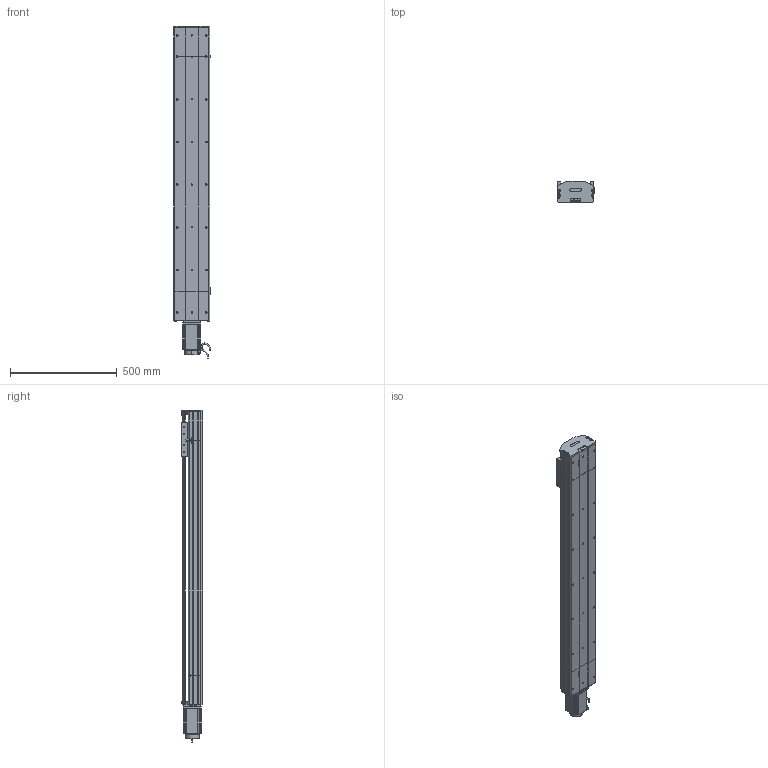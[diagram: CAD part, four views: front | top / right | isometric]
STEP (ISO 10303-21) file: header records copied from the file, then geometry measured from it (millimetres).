
FILE_DESCRIPTION (( 'STEP AP214' ), '1' );
FILE_NAME ('D17 TSH MD S1100.STEP', '2010-06-30T07:00:00', ( 'Christophe Gaillard' ), ( 'SGA' ), 'SwSTEP 2.0', 'SolidWorks 2010', '' );
FILE_SCHEMA (( 'AUTOMOTIVE_DESIGN' ));
Length unit declared in the file: millimetre
Products named in the file (31): vis M5 L12_Default; guide D17; Chariot D17; chariot D17S_Default; codeur 90BLDC125-640; corps 90BLDC125A-640; avant 90BLDC125A-640; Vis M5 L16-2_Default; Conecteur_Default; Conecteur2_Default; Moteur motionking 90BLDC125A-640; vis M5 L5_Default; Arbre+rail head D17; plaque de  bout head D17_Default; D17 TSH MD S1100; couvercle D17 course L1100_Default; corp D17 1100_Default; arbre + rail D17 Course 1100 ; course 1100 D17_Default; plaque de  bout tail D17_Default; corpl tail D17+L100_Default; Tail D17+L100_Default; Arbre+rail tail D17; tete d''axe haut D17; tete d''axe bas D17; vis M5 L25_Default; vis M5 L8 90°_Default; couvercle D17_Default; couvercle D17 head_Default; corpl head D17 MD_Default; head MD_Default
Assembly tree (50 placements, depth 4):
  D17 TSH MD S1100
    Tail D17+L100_Default
      Arbre+rail tail D17
      vis M5 L8 90°_Default  x2
      tete d''axe haut D17
      vis M5 L25_Default  x2
      tete d''axe bas D17
      couvercle D17_Default
      vis M5 L12_Default  x4
      plaque de  bout tail D17_Default
      corpl tail D17+L100_Default
    head MD_Default
      couvercle D17 head_Default
      vis M5 L5_Default  x2
      corpl head D17 MD_Default
      vis M5 L12_Default  x6
      plaque de  bout head D17_Default
      Vis M5 L16-2_Default  x4
      Moteur motionking 90BLDC125A-640
        codeur 90BLDC125-640
        avant 90BLDC125A-640
        Conecteur2_Default
        Conecteur_Default
        corps 90BLDC125A-640
      Arbre+rail head D17
    course 1100 D17_Default
      couvercle D17 course L1100_Default
      arbre + rail D17 Course 1100 
      corp D17 1100_Default
    chariot D17S_Default
      guide D17  x2
      vis M5 L12_Default  x4
      Chariot D17
Bounding box: 174.95 x 99.7 x 1557.5 mm (x, y, z)
Volume: 8858792.9 mm3; surface area: 2272628.1 mm2
Topology: 75 solids, 75 shells, 2132 faces, 5434 edges, 3522 vertices
Faces by surface type: plane 1323, cylinder 560, bspline 136, torus 57, cone 56
Entity records: 71668 total; most frequent: CARTESIAN_POINT 22603, ORIENTED_EDGE 8684, DIRECTION 8031, EDGE_CURVE 4342, VECTOR 3019, LINE 3019, VERTEX_POINT 2858, AXIS2_PLACEMENT_3D 2506
